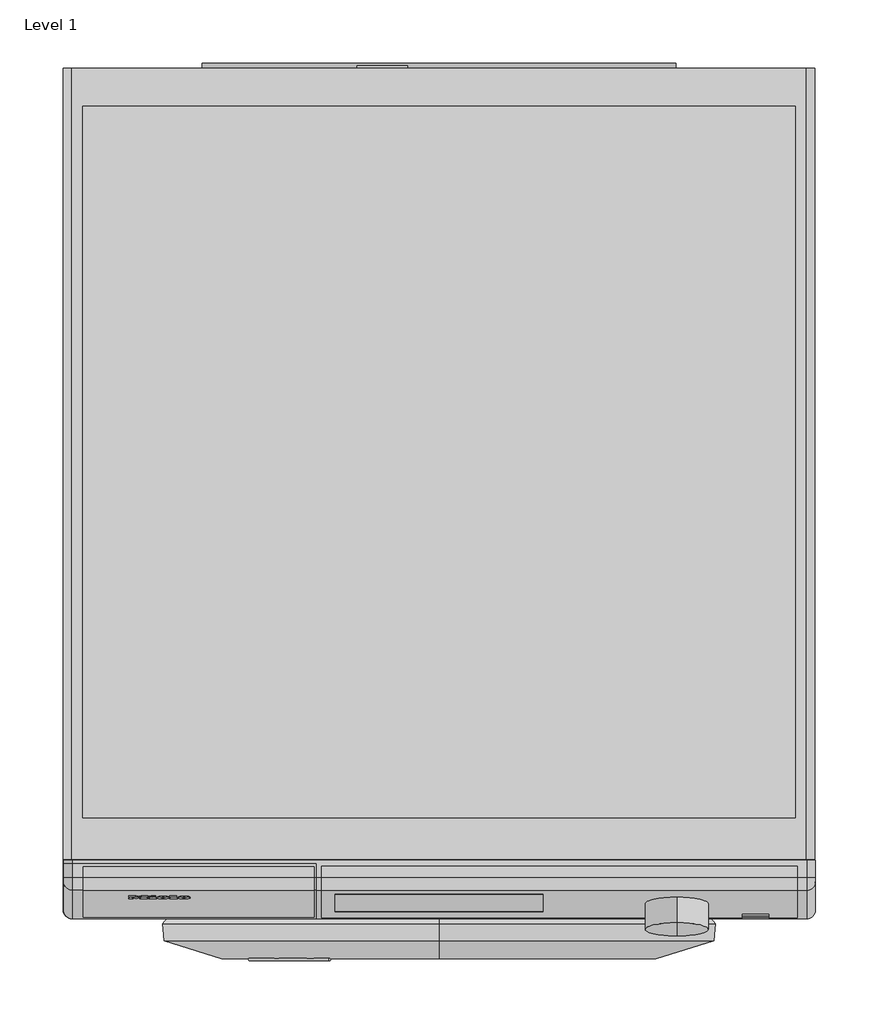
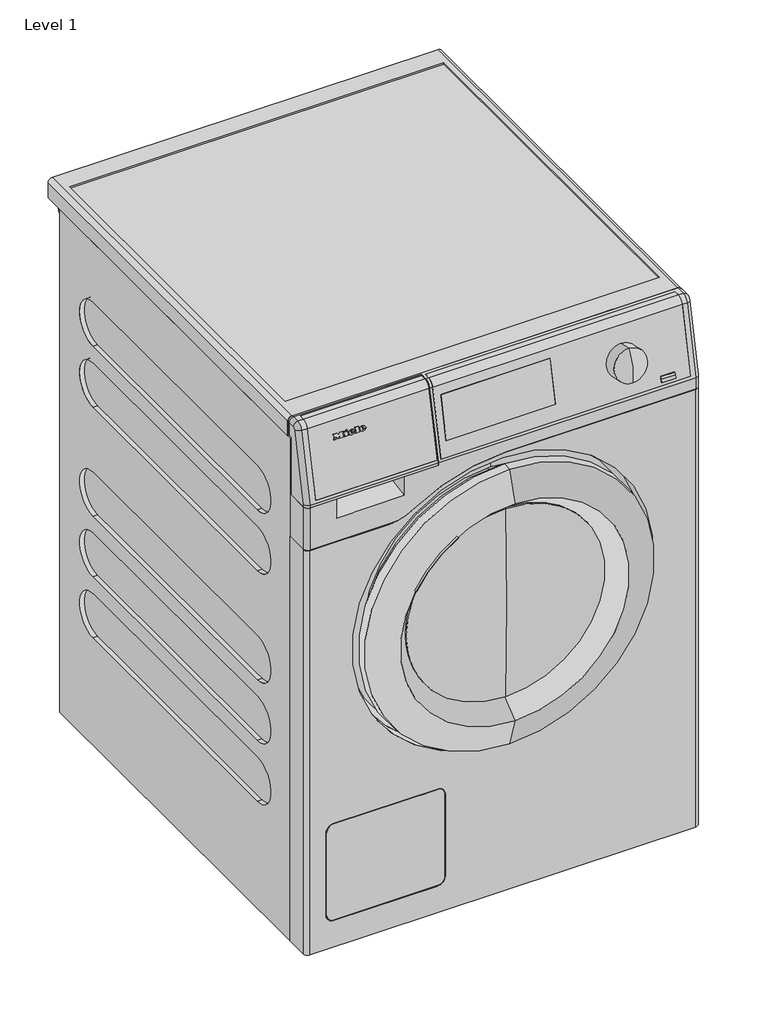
# One storey: 1 proxy.
"""IFC4 building model written with IfcOpenShell, lengths in millimetres."""

from ifc_helpers import new_model, si_unit, origin, place, context, project, spatial, transform, mapped, element, save
from components import specialty_equipment_d562a600, specialty_equipment_1d82cdd6, specialty_equipment_5b245b4f

model = new_model("IFC4")

# Units and contexts
model_context = context("Model", 3, world=origin())
ifc_project = project(units=[si_unit("LENGTHUNIT", "METRE", prefix="MILLI")], contexts=[model_context])

# Site, building, storey
site = spatial("IfcSite", under=ifc_project)
building = spatial("IfcBuilding", under=site)
storey = spatial("IfcBuildingStorey", under=building, Name="Level 1", Elevation=0.0)

# Proxy
placement = place(None, origin())
specialty_equipment_shape = specialty_equipment_d562a600(model_context)
specialty_equipment_2_shape = specialty_equipment_1d82cdd6(model_context)
specialty_equipment_3_shape = specialty_equipment_5b245b4f(model_context)
element("IfcBuildingElementProxy", 1, Name="11137250_RU_PWM507DP_LW : 51507151_RU_11137250_PWM507DP_LW", ObjectType="11137250_RU_PWM507DP_LW : 51507151_RU_11137250_PWM507DP_LW", at=placement, inside=storey, context=model_context, shape_type="MappedRepresentation", body=[
    mapped(specialty_equipment_shape, transform((0.0, 0.0, 0.0), x_axis=(1.0, 0.0, 0.0), y_axis=(0.0, 1.0, 0.0), z_axis=(0.0, 0.0, 1.0))),
    mapped(specialty_equipment_2_shape, transform((0.0, 0.0, 0.0), x_axis=(1.0, 0.0, 0.0), y_axis=(0.0, 1.0, 0.0), z_axis=(0.0, 0.0, 1.0))),
    mapped(specialty_equipment_3_shape, transform((0.0, 0.0, 0.0), x_axis=(1.0, 0.0, 0.0), y_axis=(0.0, 1.0, 0.0), z_axis=(0.0, 0.0, 1.0))),
])

save(model, "model.ifc")
